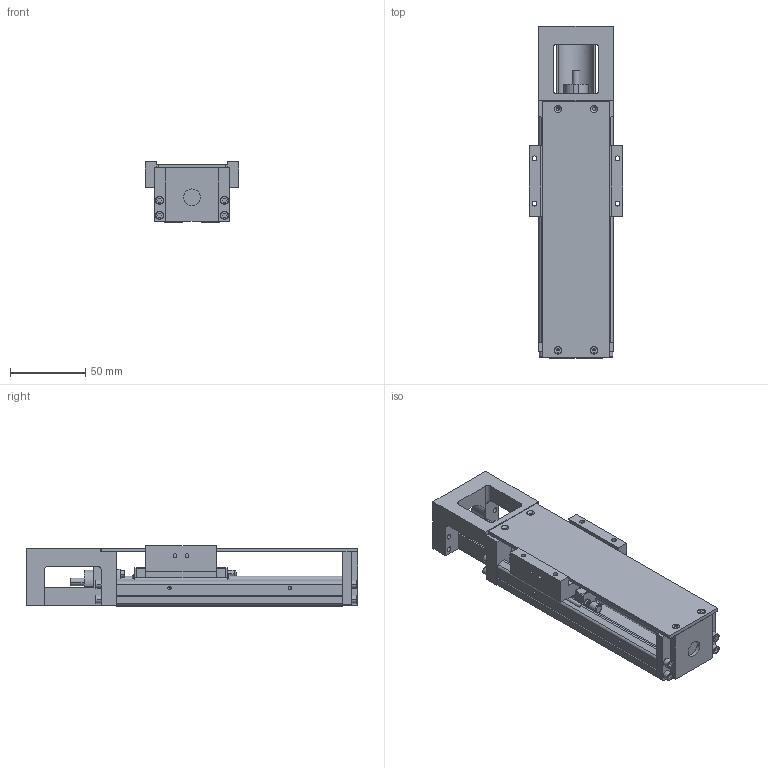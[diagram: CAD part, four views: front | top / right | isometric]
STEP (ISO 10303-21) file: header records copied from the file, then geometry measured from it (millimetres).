
FILE_DESCRIPTION(('no description'),'unknown implementation level');
FILE_NAME('KK5002P150A1F0C00_FILE_18.stp',' ',('HIWIN GmbH'),('CADClick - KiM GmbH - www.kimweb.de'),'unknown preprocess','ACIS','unknown authorization');
FILE_SCHEMA(('automotive_design'));
Length unit declared in the file: millimetre
Products named in the file (2): KK50_FILE; KK5002P150A1F0C00_FILE
Bounding box: 62 x 220 x 40 mm (x, y, z)
Volume: 232279.7 mm3; surface area: 87763.5 mm2
Topology: 2 solids, 14 shells, 820 faces, 2072 edges, 1309 vertices
Faces by surface type: plane 481, cylinder 231, cone 66, torus 42
Entity records: 48178 total; most frequent: CARTESIAN_POINT 4703, DIRECTION 4296, STYLED_ITEM 4169, PRESENTATION_STYLE_ASSIGNMENT 4169, COLOUR_RGB 4169, ORIENTED_EDGE 4076, EDGE_CURVE 2038, CURVE_STYLE 2038
